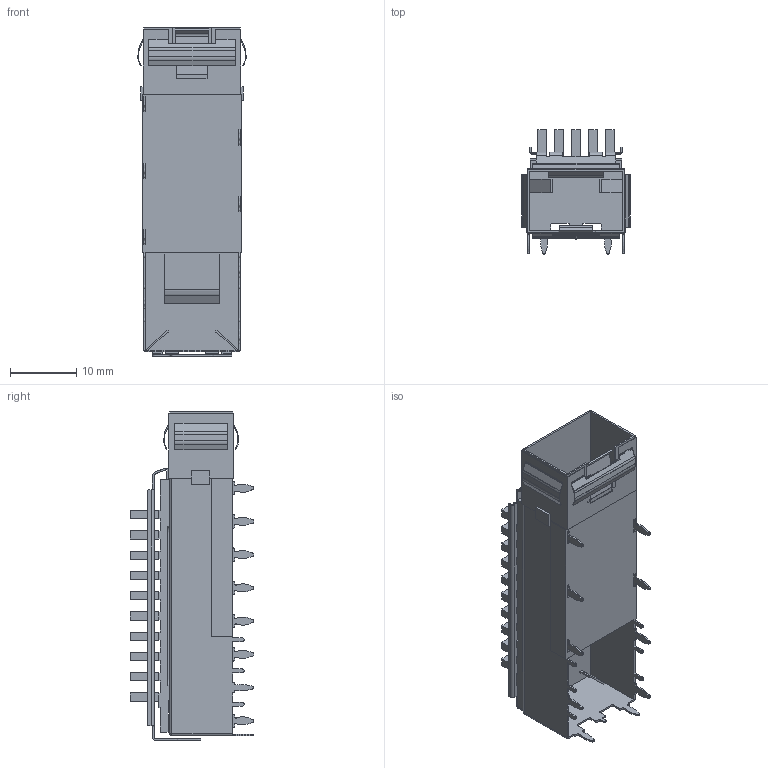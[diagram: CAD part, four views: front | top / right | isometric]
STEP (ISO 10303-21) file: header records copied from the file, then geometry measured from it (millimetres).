
FILE_DESCRIPTION (( 'STEP AP203' ), '1' );
FILE_NAME ('SFP+ 1X1散热器15.8压接脚有月牙后2脚（3D-20230808）.STEP', '2023-08-08T05:54:43', ( '桑三博客' ), ( 'Www.SangSan.Cn' ), 'SwSTEP 2.0', 'SolidWorks 2018', '' );
FILE_SCHEMA (( 'CONFIG_CONTROL_DESIGN' ));
Length unit declared in the file: millimetre
Products named in the file (1): SFP+ 1X1散热器15.8压接脚有月牙后2脚（3D-20230808）
Bounding box: 16.3 x 18.6 x 49.42 mm (x, y, z)
Volume: 1999.7 mm3; surface area: 7143.2 mm2
Topology: 2 solids, 2 shells, 826 faces, 2496 edges, 1675 vertices
Faces by surface type: plane 578, cylinder 238, bspline 8, sphere 2
Entity records: 28073 total; most frequent: CARTESIAN_POINT 5152, ORIENTED_EDGE 4988, DIRECTION 4580, EDGE_CURVE 2494, LINE 1990, VECTOR 1990, VERTEX_POINT 1675, AXIS2_PLACEMENT_3D 1295
